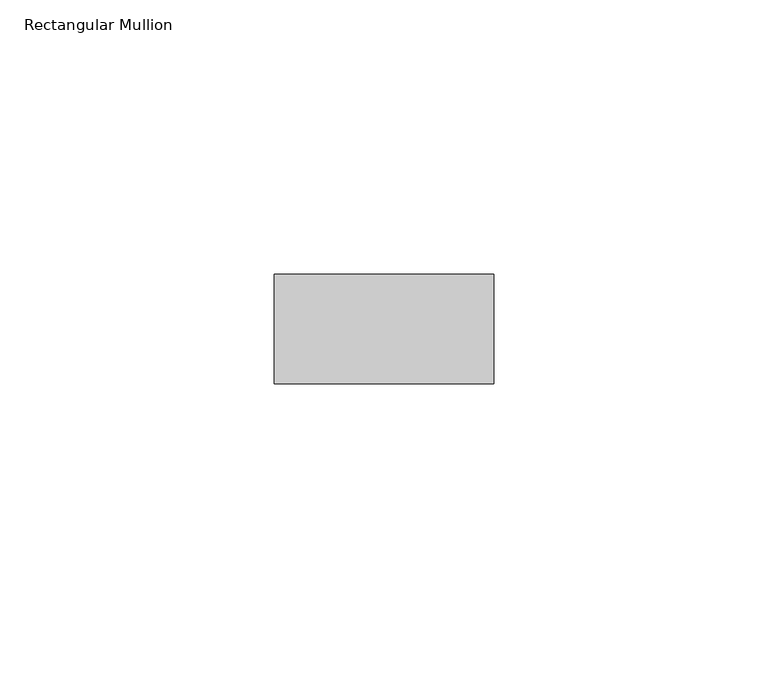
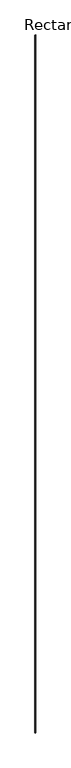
"""IFC4 building model written with IfcOpenShell, lengths in millimetres: member geometry, Rectangular Mullion : RIPA 4x2 cm."""

from ifc_helpers import new_model, si_unit, frame, origin, place, context, project, spatial, polyline, outline, extrude, source, transform, mapped, element, save


def rectangular_mullion_4a84ea43(model_context):
    return source(origin(), model_context, "Body", "SweptSolid", [
        extrude(outline(polyline([(20.0, 0.0), (20.0, -20.0), (-20.0, -20.0), (-20.0, 0.0), (20.0, 0.0)])), frame((0.0, 0.0, -39154.4331439), z_axis=(0.0, 0.0, 1.0), x_axis=(1.0, 0.0, 0.0)), (0.0, 0.0, 1.0), 39154.4331439),
    ])


if __name__ == "__main__":
    model = new_model("IFC4")
    model_context = context("Model", 3, world=origin())
    ifc_project = project(units=[si_unit("LENGTHUNIT", "METRE", prefix="MILLI")], contexts=[model_context])
    site = spatial("IfcSite", under=ifc_project)
    building = spatial("IfcBuilding", under=site)
    placement = place(None, origin())
    rectangular_mullion_shape = rectangular_mullion_4a84ea43(model_context)
    element("IfcMember", 1, ObjectType="Rectangular Mullion : RIPA 4x2 cm", at=placement, inside=building, context=model_context, shape_type="MappedRepresentation", body=[
        mapped(rectangular_mullion_shape, transform((0.0, 0.0, 0.0), x_axis=(1.0, 0.0, 0.0), y_axis=(0.0, 1.0, 0.0), z_axis=(0.0, 0.0, 1.0))),
    ])
    save(model, "model.ifc")
